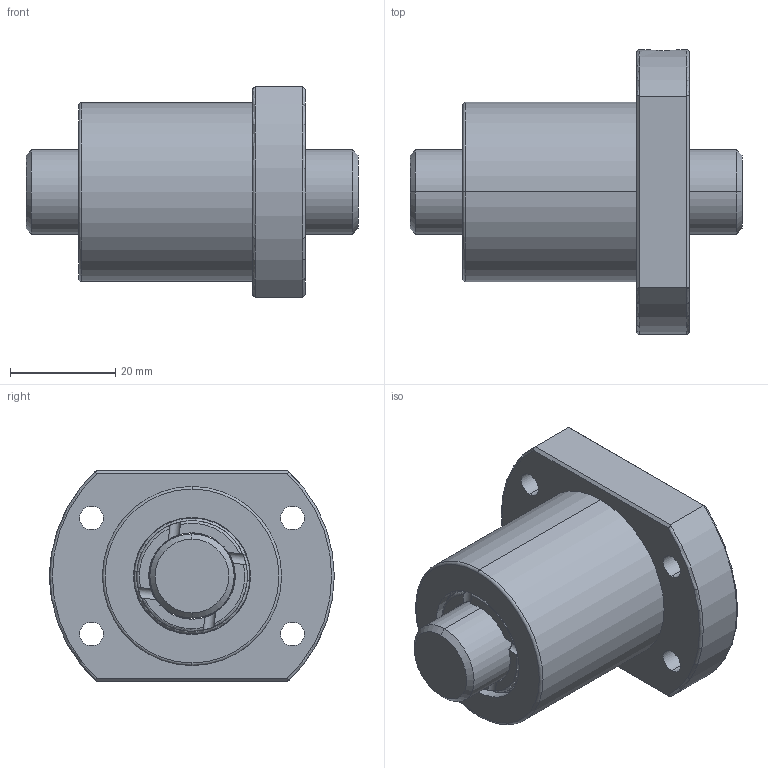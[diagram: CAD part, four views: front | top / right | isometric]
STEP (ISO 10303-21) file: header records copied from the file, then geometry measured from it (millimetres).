
FILE_DESCRIPTION (( 'STEP AP203' ), '1' );
FILE_NAME ('SFBR01605T3D.STEP', '2020-06-17T08:57:57', ( '' ), ( '' ), 'SwSTEP 2.0', 'SolidWorks 2013', '' );
FILE_SCHEMA (( 'CONFIG_CONTROL_DESIGN' ));
Length unit declared in the file: millimetre
Products named in the file (1): SFBR01605T3D
Bounding box: 63 x 54 x 40 mm (x, y, z)
Volume: 50508.9 mm3; surface area: 16822.1 mm2
Topology: 2 solids, 2 shells, 102 faces, 252 edges, 156 vertices
Faces by surface type: cylinder 50, torus 24, plane 24, cone 4
Entity records: 3899 total; most frequent: CARTESIAN_POINT 1407, DIRECTION 514, ORIENTED_EDGE 504, EDGE_CURVE 252, AXIS2_PLACEMENT_3D 223, VERTEX_POINT 156, CIRCLE 120, EDGE_LOOP 118
